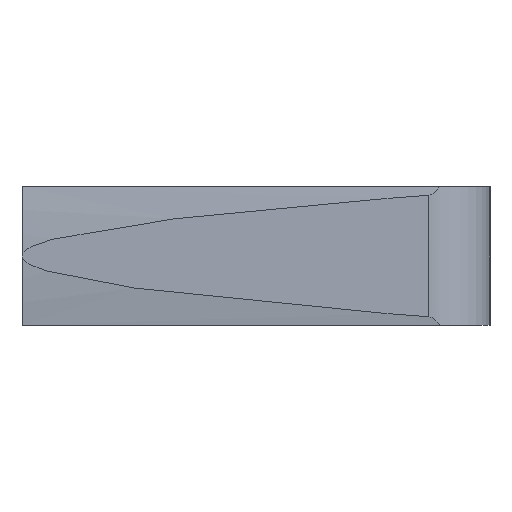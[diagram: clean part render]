
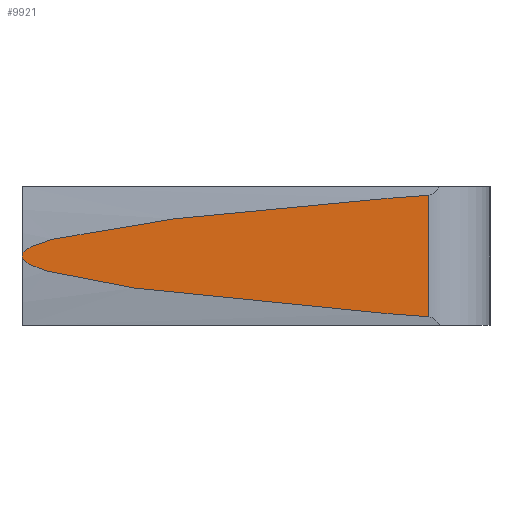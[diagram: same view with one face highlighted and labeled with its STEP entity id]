
A CAD part, left-side view. The second image highlights one B-rep face of the part: STEP entity #9921.
In plain terms, the highlighted planar face has unit normal (-1, -0.009, 0).
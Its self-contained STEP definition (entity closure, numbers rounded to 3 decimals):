
#5403 = VERTEX_POINT( '', #15732 );
#8559 = EDGE_CURVE( '', #8813, #11719, #19147, .T. );
#8813 = VERTEX_POINT( '', #19420 );
#9071 = EDGE_CURVE( '', #5403, #11719, #19697, .T. );
#9921 = ADVANCED_FACE( '', ( #20614 ), #20615, .F. );
#10029 = VERTEX_POINT( '', #20731 );
#10489 = VERTEX_POINT( '', #21220 );
#11373 = EDGE_CURVE( '', #5403, #10489, #22167, .T. );
#11719 = VERTEX_POINT( '', #22537 );
#12595 = EDGE_CURVE( '', #10029, #10489, #23491, .T. );
#12793 = EDGE_CURVE( '', #8813, #10029, #23708, .T. );
#15732 = CARTESIAN_POINT( '', ( -19.769, -26.435, 3.948 ) );
#19147 = ( B_SPLINE_CURVE( 2, ( #32182, #32183, #32184 ), .UNSPECIFIED., .F., .F. )B_SPLINE_CURVE_WITH_KNOTS( ( 3, 3 ), ( 52.222, 53.646 ), .UNSPECIFIED. )RATIONAL_B_SPLINE_CURVE( ( 1., 1., 1. ) )BOUNDED_CURVE(  )REPRESENTATION_ITEM( '' )GEOMETRIC_REPRESENTATION_ITEM(  )CURVE(  ) );
#19420 = CARTESIAN_POINT( '', ( -19.793, -23.708, -3.74 ) );
#19697 = LINE( '', #33054, #33055 );
#20614 = FACE_OUTER_BOUND( '', #34441, .T. );
#20615 = PLANE( '', #34442 );
#20731 = CARTESIAN_POINT( '', ( -20., 0., 0. ) );
#21220 = CARTESIAN_POINT( '', ( -19.793, -23.708, 3.74 ) );
#22167 = ( B_SPLINE_CURVE( 2, ( #36880, #36881, #36882 ), .UNSPECIFIED., .F., .F. )B_SPLINE_CURVE_WITH_KNOTS( ( 3, 3 ), ( 0., 1.423 ), .UNSPECIFIED. )RATIONAL_B_SPLINE_CURVE( ( 1., 1., 1. ) )BOUNDED_CURVE(  )REPRESENTATION_ITEM( '' )GEOMETRIC_REPRESENTATION_ITEM(  )CURVE(  ) );
#22537 = CARTESIAN_POINT( '', ( -19.769, -26.435, -3.948 ) );
#23491 = ( B_SPLINE_CURVE( 2, ( #39002, #39003, #39004, #39005, #39006 ), .UNSPECIFIED., .F., .F. )B_SPLINE_CURVE_WITH_KNOTS( ( 3, 1, 1, 3 ), ( 24.819, 39.572, 44.221, 49.267 ), .UNSPECIFIED. )RATIONAL_B_SPLINE_CURVE( ( 1., 0.999, 0.999, 1., 1. ) )BOUNDED_CURVE(  )REPRESENTATION_ITEM( '' )GEOMETRIC_REPRESENTATION_ITEM(  )CURVE(  ) );
#23708 = ( B_SPLINE_CURVE( 2, ( #39326, #39327, #39328, #39329, #39330 ), .UNSPECIFIED., .F., .F. )B_SPLINE_CURVE_WITH_KNOTS( ( 3, 1, 1, 3 ), ( 0.371, 5.403, 10.047, 24.819 ), .UNSPECIFIED. )RATIONAL_B_SPLINE_CURVE( ( 1., 1., 0.999, 0.999, 1. ) )BOUNDED_CURVE(  )REPRESENTATION_ITEM( '' )GEOMETRIC_REPRESENTATION_ITEM(  )CURVE(  ) );
#32182 = CARTESIAN_POINT( '', ( -19.793, -23.708, -3.74 ) );
#32183 = CARTESIAN_POINT( '', ( -19.782, -25.034, -3.844 ) );
#32184 = CARTESIAN_POINT( '', ( -19.769, -26.435, -3.948 ) );
#33054 = CARTESIAN_POINT( '', ( -19.769, -26.435, 32. ) );
#33055 = VECTOR( '', #48891, 1. );
#34441 = EDGE_LOOP( '', ( #49959, #49960, #49961, #49962, #49963 ) );
#34442 = AXIS2_PLACEMENT_3D( '', #49964, #49965, #49966 );
#36880 = CARTESIAN_POINT( '', ( -19.769, -26.435, 3.948 ) );
#36881 = CARTESIAN_POINT( '', ( -19.782, -25.034, 3.844 ) );
#36882 = CARTESIAN_POINT( '', ( -19.793, -23.708, 3.74 ) );
#39002 = CARTESIAN_POINT( '', ( -20., 0., 0. ) );
#39003 = CARTESIAN_POINT( '', ( -20., 0., 1.131 ) );
#39004 = CARTESIAN_POINT( '', ( -19.901, -11.361, 2.615 ) );
#39005 = CARTESIAN_POINT( '', ( -19.836, -18.821, 3.355 ) );
#39006 = CARTESIAN_POINT( '', ( -19.793, -23.708, 3.74 ) );
#39326 = CARTESIAN_POINT( '', ( -19.793, -23.708, -3.74 ) );
#39327 = CARTESIAN_POINT( '', ( -19.836, -18.834, -3.356 ) );
#39328 = CARTESIAN_POINT( '', ( -19.901, -11.384, -2.618 ) );
#39329 = CARTESIAN_POINT( '', ( -20., 0., -1.133 ) );
#39330 = CARTESIAN_POINT( '', ( -20., 0., 0. ) );
#48891 = DIRECTION( '', ( 0., 0., -1. ) );
#49959 = ORIENTED_EDGE( '', *, *, #8559, .T. );
#49960 = ORIENTED_EDGE( '', *, *, #9071, .F. );
#49961 = ORIENTED_EDGE( '', *, *, #11373, .T. );
#49962 = ORIENTED_EDGE( '', *, *, #12595, .F. );
#49963 = ORIENTED_EDGE( '', *, *, #12793, .F. );
#49964 = CARTESIAN_POINT( '', ( -19.769, -26.435, 32. ) );
#49965 = DIRECTION( '', ( 1., 0.009, 0. ) );
#49966 = DIRECTION( '', ( 0.009, -1., 0. ) );
